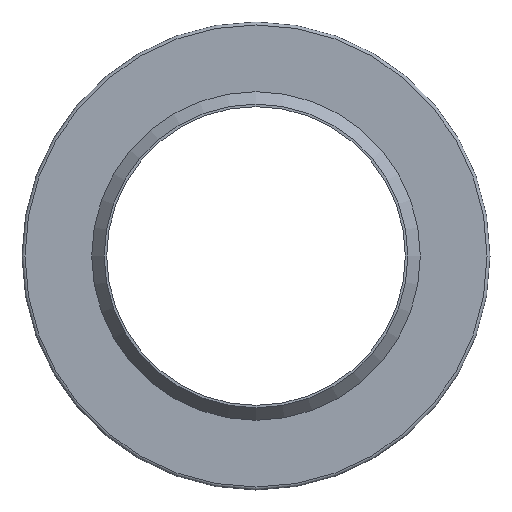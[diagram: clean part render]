
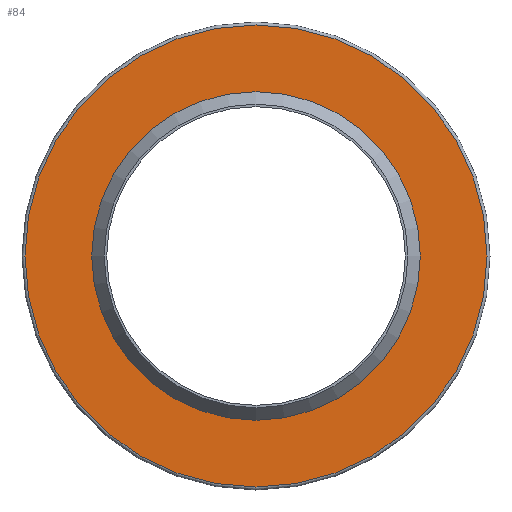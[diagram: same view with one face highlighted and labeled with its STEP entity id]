
A CAD part, left-side view. The second image highlights one B-rep face of the part: STEP entity #84.
In plain terms, the highlighted planar face has unit normal (-1, 0, 0).
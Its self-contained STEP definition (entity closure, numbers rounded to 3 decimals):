
#84=ADVANCED_FACE('',(#117,#118),#119,.T.);
#117=FACE_OUTER_BOUND('',#159,.T.);
#118=FACE_BOUND('',#160,.T.);
#119=PLANE('',#161);
#159=EDGE_LOOP('',(#219));
#160=EDGE_LOOP('',(#220));
#161=AXIS2_PLACEMENT_3D('',#221,#222,#223);
#219=ORIENTED_EDGE('',*,*,#254,.T.);
#220=ORIENTED_EDGE('',*,*,#253,.F.);
#221=CARTESIAN_POINT('',(-5.0,16.5,0.0));
#222=DIRECTION('',(-1.0,0.0,0.0));
#223=DIRECTION('',(0.0,0.0,1.0));
#253=EDGE_CURVE('',#276,#276,#277,.T.);
#254=EDGE_CURVE('',#278,#278,#279,.T.);
#276=VERTEX_POINT('',#304);
#277=CIRCLE('',#305,16.5);
#278=VERTEX_POINT('',#306);
#279=CIRCLE('',#307,23.2);
#304=CARTESIAN_POINT('',(-5.0,0.0,16.5));
#305=AXIS2_PLACEMENT_3D('',#341,#342,#343);
#306=CARTESIAN_POINT('',(-5.0,0.0,23.2));
#307=AXIS2_PLACEMENT_3D('',#344,#345,#346);
#341=CARTESIAN_POINT('',(-5.0,0.0,0.0));
#342=DIRECTION('',(-1.0,0.0,0.0));
#343=DIRECTION('',(0.0,0.0,1.0));
#344=CARTESIAN_POINT('',(-5.0,0.0,0.0));
#345=DIRECTION('',(-1.0,0.0,0.0));
#346=DIRECTION('',(0.0,0.0,1.0));
